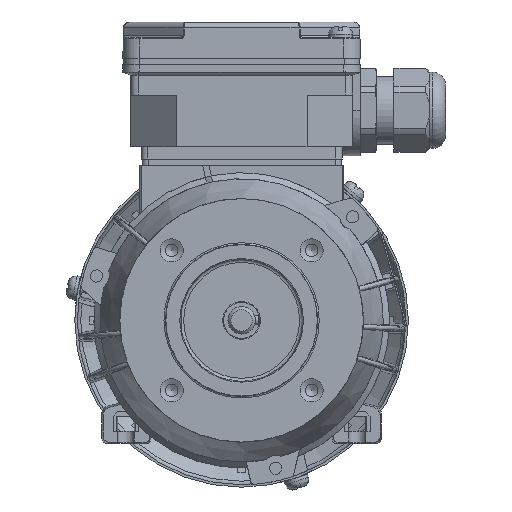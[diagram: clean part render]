
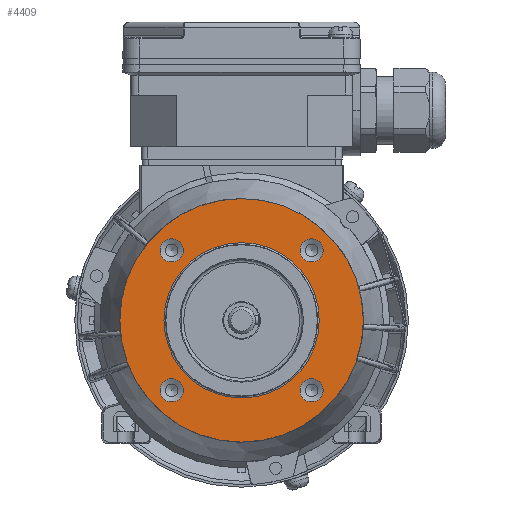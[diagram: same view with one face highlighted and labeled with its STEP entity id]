
A CAD part, left-side view. The second image highlights one B-rep face of the part: STEP entity #4409.
In plain terms, the highlighted planar face has unit normal (-1, 0, 0).
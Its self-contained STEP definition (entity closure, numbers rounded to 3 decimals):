
#4409 = ADVANCED_FACE( '', ( #9135, #9136, #9137, #9138, #9139, #9140 ), #9141, .F. );
#9135 = FACE_BOUND( '', #17816, .T. );
#9136 = FACE_BOUND( '', #17817, .T. );
#9137 = FACE_BOUND( '', #17818, .T. );
#9138 = FACE_BOUND( '', #17819, .T. );
#9139 = FACE_OUTER_BOUND( '', #17820, .T. );
#9140 = FACE_BOUND( '', #17821, .T. );
#9141 = PLANE( '', #17822 );
#17816 = EDGE_LOOP( '', ( #31342 ) );
#17817 = EDGE_LOOP( '', ( #31343 ) );
#17818 = EDGE_LOOP( '', ( #31344 ) );
#17819 = EDGE_LOOP( '', ( #31345 ) );
#17820 = EDGE_LOOP( '', ( #31346 ) );
#17821 = EDGE_LOOP( '', ( #31347 ) );
#17822 = AXIS2_PLACEMENT_3D( '', #31348, #31349, #31350 );
#31342 = ORIENTED_EDGE( '', *, *, #39548, .T. );
#31343 = ORIENTED_EDGE( '', *, *, #40129, .T. );
#31344 = ORIENTED_EDGE( '', *, *, #41046, .T. );
#31345 = ORIENTED_EDGE( '', *, *, #37538, .T. );
#31346 = ORIENTED_EDGE( '', *, *, #36828, .T. );
#31347 = ORIENTED_EDGE( '', *, *, #38599, .T. );
#31348 = CARTESIAN_POINT( '', ( -45., 0., 25. ) );
#31349 = DIRECTION( '', ( 1., 0., 0. ) );
#31350 = DIRECTION( '', ( 0., 0., -1. ) );
#36828 = EDGE_CURVE( '', #42956, #42956, #42957, .T. );
#37538 = EDGE_CURVE( '', #44152, #44152, #44153, .T. );
#38599 = EDGE_CURVE( '', #45888, #45888, #45889, .T. );
#39548 = EDGE_CURVE( '', #47333, #47333, #47334, .T. );
#40129 = EDGE_CURVE( '', #48193, #48193, #48194, .T. );
#41046 = EDGE_CURVE( '', #49411, #49411, #49412, .T. );
#42956 = VERTEX_POINT( '', #51974 );
#42957 = CIRCLE( '', #51975, 40. );
#44152 = VERTEX_POINT( '', #54433 );
#44153 = CIRCLE( '', #54434, 3.799 );
#45888 = VERTEX_POINT( '', #57737 );
#45889 = CIRCLE( '', #57738, 25.5 );
#47333 = VERTEX_POINT( '', #60453 );
#47334 = CIRCLE( '', #60454, 3.799 );
#48193 = VERTEX_POINT( '', #61999 );
#48194 = CIRCLE( '', #62000, 3.799 );
#49411 = VERTEX_POINT( '', #64634 );
#49412 = CIRCLE( '', #64635, 3.799 );
#51974 = CARTESIAN_POINT( '', ( -45., 0., 40. ) );
#51975 = AXIS2_PLACEMENT_3D( '', #67700, #67701, #67702 );
#54433 = CARTESIAN_POINT( '', ( -45., 22.981, 19.182 ) );
#54434 = AXIS2_PLACEMENT_3D( '', #68543, #68544, #68545 );
#57737 = CARTESIAN_POINT( '', ( -45., 0., -25.5 ) );
#57738 = AXIS2_PLACEMENT_3D( '', #69783, #69784, #69785 );
#60453 = CARTESIAN_POINT( '', ( -45., 22.981, -26.78 ) );
#60454 = AXIS2_PLACEMENT_3D( '', #70891, #70892, #70893 );
#61999 = CARTESIAN_POINT( '', ( -45., -22.981, -26.78 ) );
#62000 = AXIS2_PLACEMENT_3D( '', #71727, #71728, #71729 );
#64634 = CARTESIAN_POINT( '', ( -45., -22.981, 19.182 ) );
#64635 = AXIS2_PLACEMENT_3D( '', #72776, #72777, #72778 );
#67700 = CARTESIAN_POINT( '', ( -45., 0., 0. ) );
#67701 = DIRECTION( '', ( -1., 0., 0. ) );
#67702 = DIRECTION( '', ( 0., 0., 1. ) );
#68543 = CARTESIAN_POINT( '', ( -45., 22.981, 22.981 ) );
#68544 = DIRECTION( '', ( 1., 0., 0. ) );
#68545 = DIRECTION( '', ( 0., 0., -1. ) );
#69783 = CARTESIAN_POINT( '', ( -45., 0., 0. ) );
#69784 = DIRECTION( '', ( 1., 0., 0. ) );
#69785 = DIRECTION( '', ( 0., 0., -1. ) );
#70891 = CARTESIAN_POINT( '', ( -45., 22.981, -22.981 ) );
#70892 = DIRECTION( '', ( 1., 0., 0. ) );
#70893 = DIRECTION( '', ( 0., 0., -1. ) );
#71727 = CARTESIAN_POINT( '', ( -45., -22.981, -22.981 ) );
#71728 = DIRECTION( '', ( 1., 0., 0. ) );
#71729 = DIRECTION( '', ( 0., 0., -1. ) );
#72776 = CARTESIAN_POINT( '', ( -45., -22.981, 22.981 ) );
#72777 = DIRECTION( '', ( 1., 0., 0. ) );
#72778 = DIRECTION( '', ( 0., 0., -1. ) );
